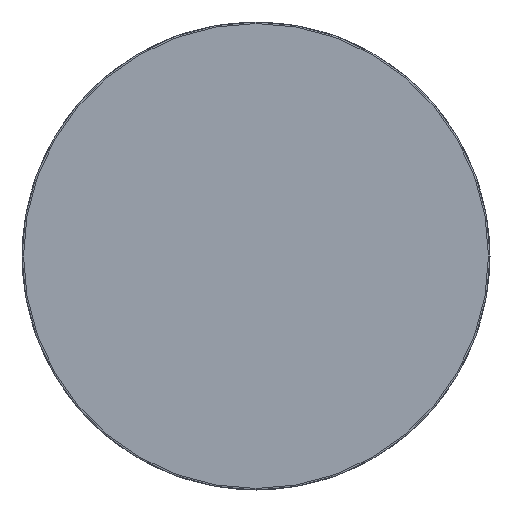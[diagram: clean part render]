
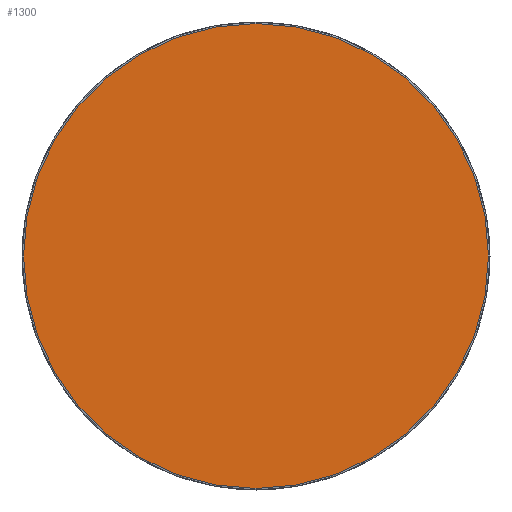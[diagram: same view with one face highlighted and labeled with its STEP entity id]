
A CAD part, front view. The second image highlights one B-rep face of the part: STEP entity #1300.
In plain terms, the highlighted planar face has unit normal (0, -1, 0).
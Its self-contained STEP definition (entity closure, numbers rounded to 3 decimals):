
#1275=CARTESIAN_POINT('',(1367.13,982.446,-73.8));
#1276=DIRECTION('',(0.0,-1.0,0.0));
#1277=DIRECTION('',(0.0,0.0,1.0));
#1278=AXIS2_PLACEMENT_3D('',#1275,#1276,#1277);
#1279=PLANE('',#1278);
#1280=CARTESIAN_POINT('',(1293.329,982.446,61.1));
#1281=VERTEX_POINT('',#1280);
#1282=CARTESIAN_POINT('',(1293.329,982.446,-61.1));
#1283=VERTEX_POINT('',#1282);
#1284=CARTESIAN_POINT('',(1293.329,982.446,0.0));
#1285=DIRECTION('',(0.0,-1.0,0.0));
#1286=DIRECTION('',(0.0,0.0,1.0));
#1287=AXIS2_PLACEMENT_3D('',#1284,#1285,#1286);
#1288=CIRCLE('',#1287,61.1);
#1289=EDGE_CURVE('',#1281,#1283,#1288,.T.);
#1290=ORIENTED_EDGE('',*,*,#1289,.T.);
#1291=CARTESIAN_POINT('',(1293.329,982.446,0.0));
#1292=DIRECTION('',(0.0,-1.0,0.0));
#1293=DIRECTION('',(0.0,0.0,1.0));
#1294=AXIS2_PLACEMENT_3D('',#1291,#1292,#1293);
#1295=CIRCLE('',#1294,61.1);
#1296=EDGE_CURVE('',#1283,#1281,#1295,.T.);
#1297=ORIENTED_EDGE('',*,*,#1296,.T.);
#1298=EDGE_LOOP('',(#1290,#1297));
#1299=FACE_OUTER_BOUND('',#1298,.T.);
#1300=ADVANCED_FACE('',(#1299),#1279,.T.);
